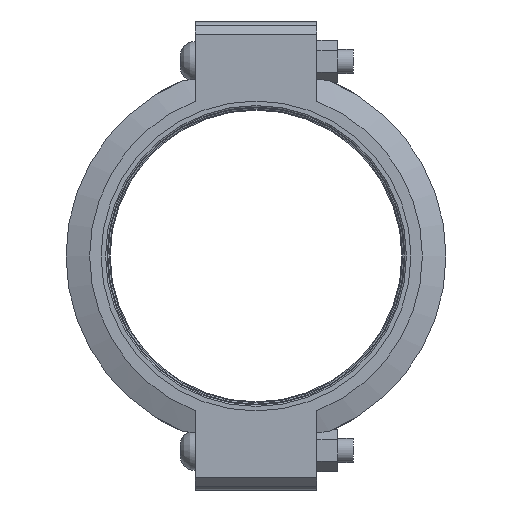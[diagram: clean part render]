
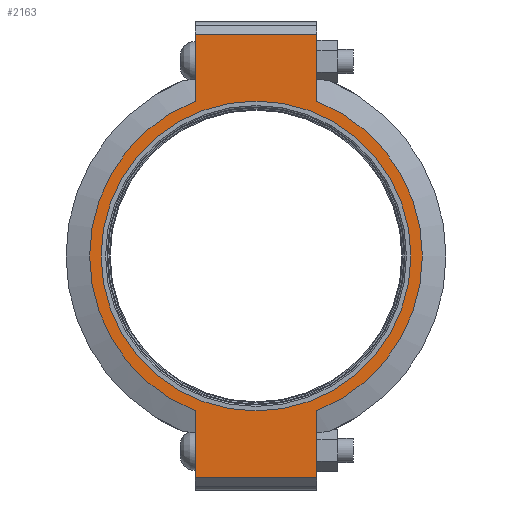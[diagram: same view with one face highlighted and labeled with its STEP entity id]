
A CAD part, left-side view. The second image highlights one B-rep face of the part: STEP entity #2163.
In plain terms, the highlighted planar face has unit normal (-1, 0, 0) as drawn and (0, 0, 1) by its records, which use the part's own axes.
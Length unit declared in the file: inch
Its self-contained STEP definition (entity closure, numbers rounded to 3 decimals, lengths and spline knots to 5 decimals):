
#216=LINE('',#3829,#311);
#227=LINE('',#3880,#322);
#233=LINE('',#3906,#328);
#235=LINE('',#3909,#330);
#236=LINE('',#3914,#331);
#237=LINE('',#3915,#332);
#311=VECTOR('',#3130,0.3937);
#322=VECTOR('',#3161,0.3937);
#328=VECTOR('',#3179,0.3937);
#330=VECTOR('',#3183,0.3937);
#331=VECTOR('',#3188,0.3937);
#332=VECTOR('',#3189,0.3937);
#399=FACE_BOUND('',#672,.T.);
#444=PLANE('',#2535);
#539=FACE_OUTER_BOUND('',#671,.T.);
#671=EDGE_LOOP('',(#1844,#1845,#1846,#1847,#1848,#1849,#1850,#1851));
#672=EDGE_LOOP('',(#1852));
#833=CIRCLE('',#2484,6.375);
#857=CIRCLE('',#2536,6.84375);
#858=CIRCLE('',#2537,6.84375);
#992=VERTEX_POINT('',#3655);
#1033=VERTEX_POINT('',#3826);
#1034=VERTEX_POINT('',#3828);
#1051=VERTEX_POINT('',#3875);
#1052=VERTEX_POINT('',#3879);
#1059=VERTEX_POINT('',#3901);
#1060=VERTEX_POINT('',#3905);
#1061=VERTEX_POINT('',#3911);
#1062=VERTEX_POINT('',#3913);
#1241=EDGE_CURVE('',#992,#992,#833,.T.);
#1298=EDGE_CURVE('',#1034,#1033,#216,.T.);
#1319=EDGE_CURVE('',#1052,#1051,#227,.T.);
#1330=EDGE_CURVE('',#1060,#1059,#233,.T.);
#1332=EDGE_CURVE('',#1060,#1033,#235,.T.);
#1333=EDGE_CURVE('',#1059,#1061,#857,.T.);
#1334=EDGE_CURVE('',#1061,#1062,#236,.T.);
#1335=EDGE_CURVE('',#1052,#1062,#237,.T.);
#1336=EDGE_CURVE('',#1051,#1034,#858,.T.);
#1844=ORIENTED_EDGE('',*,*,#1332,.F.);
#1845=ORIENTED_EDGE('',*,*,#1330,.T.);
#1846=ORIENTED_EDGE('',*,*,#1333,.T.);
#1847=ORIENTED_EDGE('',*,*,#1334,.T.);
#1848=ORIENTED_EDGE('',*,*,#1335,.F.);
#1849=ORIENTED_EDGE('',*,*,#1319,.T.);
#1850=ORIENTED_EDGE('',*,*,#1336,.T.);
#1851=ORIENTED_EDGE('',*,*,#1298,.T.);
#1852=ORIENTED_EDGE('',*,*,#1241,.T.);
#2163=ADVANCED_FACE('',(#539,#399),#444,.T.);
#2484=AXIS2_PLACEMENT_3D('',#3657,#3020,#3021);
#2535=AXIS2_PLACEMENT_3D('',#3910,#3184,#3185);
#2536=AXIS2_PLACEMENT_3D('',#3912,#3186,#3187);
#2537=AXIS2_PLACEMENT_3D('',#3916,#3190,#3191);
#3020=DIRECTION('center_axis',(0.,0.,-1.));
#3021=DIRECTION('ref_axis',(1.,0.,0.));
#3130=DIRECTION('',(1.,0.,0.));
#3161=DIRECTION('',(1.,0.,0.));
#3179=DIRECTION('',(-1.,0.,0.));
#3183=DIRECTION('',(0.,-1.,0.));
#3184=DIRECTION('center_axis',(0.,0.,1.));
#3185=DIRECTION('ref_axis',(-1.,0.,0.));
#3186=DIRECTION('center_axis',(0.,0.,1.));
#3187=DIRECTION('ref_axis',(1.,0.,0.));
#3188=DIRECTION('',(-1.,0.,0.));
#3189=DIRECTION('',(0.,1.,0.));
#3190=DIRECTION('center_axis',(0.,0.,1.));
#3191=DIRECTION('ref_axis',(1.,0.,0.));
#3655=CARTESIAN_POINT('',(-6.375,0.,1.315));
#3657=CARTESIAN_POINT('Origin',(0.,0.,1.315));
#3826=CARTESIAN_POINT('',(9.125,-2.5,1.315));
#3828=CARTESIAN_POINT('',(6.37079,-2.5,1.315));
#3829=CARTESIAN_POINT('',(-9.625,-2.5,1.315));
#3875=CARTESIAN_POINT('',(-6.37079,-2.5,1.315));
#3879=CARTESIAN_POINT('',(-9.125,-2.5,1.315));
#3880=CARTESIAN_POINT('',(-9.625,-2.5,1.315));
#3901=CARTESIAN_POINT('',(6.37079,2.5,1.315));
#3905=CARTESIAN_POINT('',(9.125,2.5,1.315));
#3906=CARTESIAN_POINT('',(9.625,2.5,1.315));
#3909=CARTESIAN_POINT('',(9.125,-1.25,1.315));
#3910=CARTESIAN_POINT('Origin',(0.,0.,
1.315));
#3911=CARTESIAN_POINT('',(-6.37079,2.5,1.315));
#3912=CARTESIAN_POINT('Origin',(0.,0.,1.315));
#3913=CARTESIAN_POINT('',(-9.125,2.5,1.315));
#3914=CARTESIAN_POINT('',(9.625,2.5,1.315));
#3915=CARTESIAN_POINT('',(-9.125,1.25,1.315));
#3916=CARTESIAN_POINT('Origin',(0.,0.,1.315));
